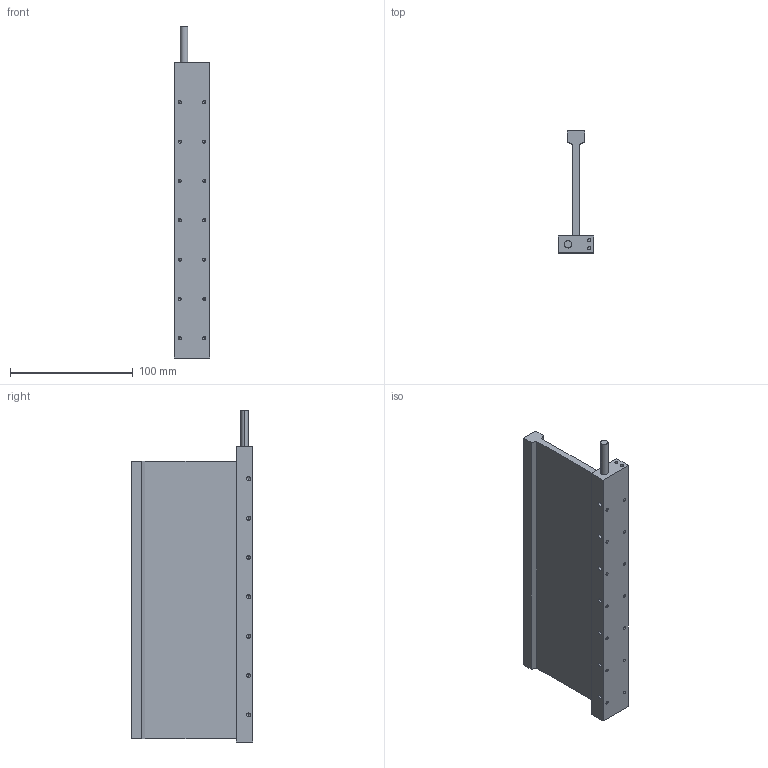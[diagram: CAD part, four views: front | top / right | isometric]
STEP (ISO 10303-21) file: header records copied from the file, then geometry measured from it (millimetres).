
FILE_DESCRIPTION (( 'STEP AP203' ), '1' );
FILE_NAME ('LMCC7.STEP', '2007-05-17T01:06:11', ( 'MH0078' ), ( 'Hiwin MikroSystem Corp.' ), 'SwSTEP 2.0', 'SolidWorks 2007', '' );
FILE_SCHEMA (( 'CONFIG_CONTROL_DESIGN' ));
Length unit declared in the file: millimetre
Products named in the file (1): LMCC7
Bounding box: 29.2 x 99 x 270 mm (x, y, z)
Volume: 219698.3 mm3; surface area: 65945.7 mm2
Topology: 1 solids, 1 shells, 136 faces, 334 edges, 176 vertices
Faces by surface type: cylinder 62, cone 56, plane 18
Entity records: 3659 total; most frequent: DIRECTION 676, CARTESIAN_POINT 591, ORIENTED_EDGE 556, EDGE_CURVE 278, AXIS2_PLACEMENT_3D 261, VERTEX_POINT 176, EDGE_LOOP 168, LINE 154
